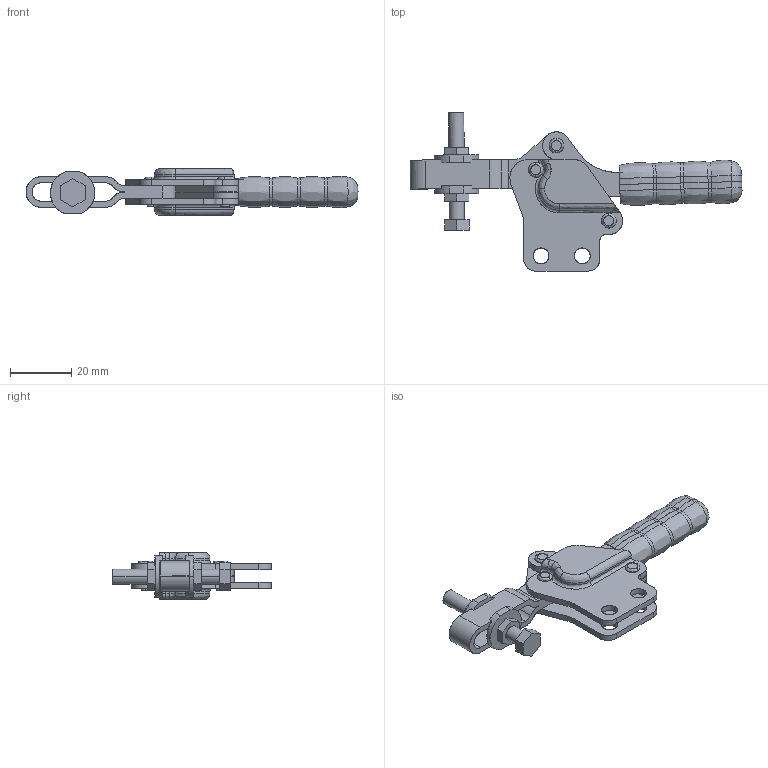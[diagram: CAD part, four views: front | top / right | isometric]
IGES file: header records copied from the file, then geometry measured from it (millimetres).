
Start section: SolidWorks IGES file using analytic representation for surfaces
Global section: file name: X:\Solidworks\Download\H75-1B\IGES\H75-1B.IGS; native system: SolidWorks 2016; preprocessor: SolidWorks 2016; author: AndyW; date: 170512.110751; units: millimetre
Bounding box: 108.82 x 51.9 x 15.4 mm (x, y, z)
Surface area: 17028.5 mm2 (no closed solid volume)
Topology: 0 solids, 0 shells, 374 faces, 4817 edges, 4814 vertices
Faces by surface type: revolution 191, bspline 183
